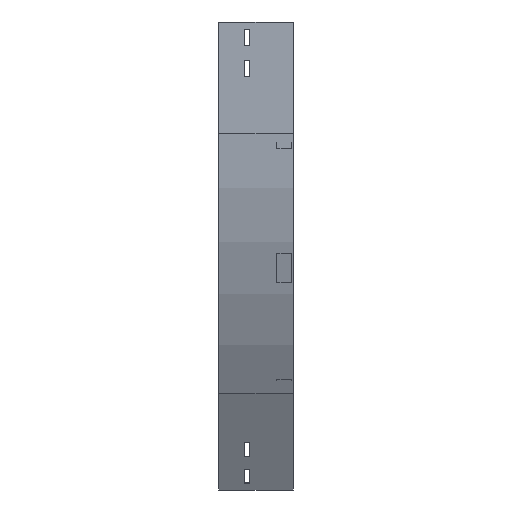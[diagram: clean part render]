
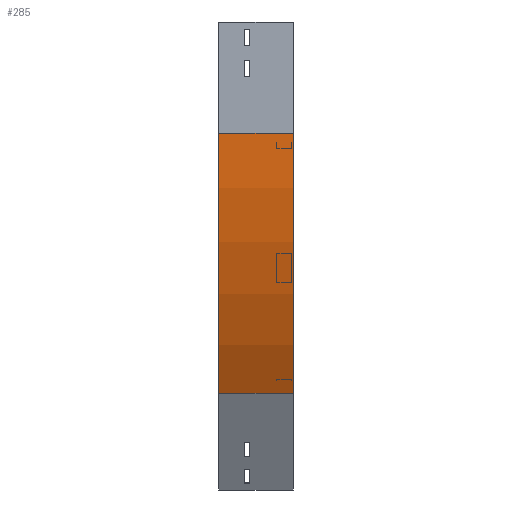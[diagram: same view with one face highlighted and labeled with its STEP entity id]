
A CAD part, left-side view. The second image highlights one B-rep face of the part: STEP entity #285.
In plain terms, the highlighted cylindrical face has radius 700 mm (diameter 1400 mm), a partial arc.
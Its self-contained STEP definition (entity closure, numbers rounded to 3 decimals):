
#285 = ADVANCED_FACE ( 'NONE', ( #513 ), #2003, .T. ) ;
#341 = VECTOR ( 'NONE', #693, 1000. ) ;
#395 = CARTESIAN_POINT ( 'NONE',  ( 700., 0., -150. ) ) ;
#407 = ORIENTED_EDGE ( 'NONE', *, *, #3655, .T. ) ;
#470 = CIRCLE ( 'NONE', #2581, 700. ) ;
#513 = FACE_OUTER_BOUND ( 'NONE', #3015, .T. ) ;
#693 = DIRECTION ( 'NONE',  ( 0., -1., 0. ) ) ;
#936 = CARTESIAN_POINT ( 'NONE',  ( 0., 0., -150. ) ) ;
#941 = CARTESIAN_POINT ( 'NONE',  ( 93.782, 100., -500. ) ) ;
#1065 = EDGE_CURVE ( 'NONE', #3474, #1152, #470, .T. ) ;
#1073 = LINE ( 'NONE', #3351, #341 ) ;
#1077 = AXIS2_PLACEMENT_3D ( 'NONE', #2216, #2277, #1694 ) ;
#1102 = VECTOR ( 'NONE', #3285, 1000. ) ;
#1152 = VERTEX_POINT ( 'NONE', #941 ) ;
#1252 = CARTESIAN_POINT ( 'NONE',  ( 0., 100., -150. ) ) ;
#1501 = DIRECTION ( 'NONE',  ( -1., 0., 0. ) ) ;
#1526 = EDGE_CURVE ( 'NONE', #3474, #3592, #3594, .T. ) ;
#1574 = DIRECTION ( 'NONE',  ( -1., 0., 0. ) ) ;
#1694 = DIRECTION ( 'NONE',  ( 0., 0., -1. ) ) ;
#1767 = DIRECTION ( 'NONE',  ( 0., -1., 0. ) ) ;
#1874 = ORIENTED_EDGE ( 'NONE', *, *, #3671, .F. ) ;
#2003 = CYLINDRICAL_SURFACE ( 'NONE', #1077, 700. ) ;
#2015 = ORIENTED_EDGE ( 'NONE', *, *, #1065, .T. ) ;
#2082 = CARTESIAN_POINT ( 'NONE',  ( 700., 100., -150. ) ) ;
#2178 = DIRECTION ( 'NONE',  ( 0., -1., 0. ) ) ;
#2211 = CARTESIAN_POINT ( 'NONE',  ( 0., 0., -150. ) ) ;
#2216 = CARTESIAN_POINT ( 'NONE',  ( 700., 0., -150. ) ) ;
#2277 = DIRECTION ( 'NONE',  ( 0., -1., 0. ) ) ;
#2312 = CIRCLE ( 'NONE', #3118, 700. ) ;
#2581 = AXIS2_PLACEMENT_3D ( 'NONE', #2082, #1767, #1501 ) ;
#2649 = CARTESIAN_POINT ( 'NONE',  ( 93.782, 0., -500. ) ) ;
#3015 = EDGE_LOOP ( 'NONE', ( #1874, #3094, #2015, #407 ) ) ;
#3094 = ORIENTED_EDGE ( 'NONE', *, *, #1526, .F. ) ;
#3118 = AXIS2_PLACEMENT_3D ( 'NONE', #395, #2178, #1574 ) ;
#3285 = DIRECTION ( 'NONE',  ( 0., -1., 0. ) ) ;
#3351 = CARTESIAN_POINT ( 'NONE',  ( 93.782, 0., -500. ) ) ;
#3474 = VERTEX_POINT ( 'NONE', #1252 ) ;
#3592 = VERTEX_POINT ( 'NONE', #2211 ) ;
#3594 = LINE ( 'NONE', #936, #1102 ) ;
#3655 = EDGE_CURVE ( 'NONE', #1152, #3798, #1073, .T. ) ;
#3671 = EDGE_CURVE ( 'NONE', #3592, #3798, #2312, .T. ) ;
#3798 = VERTEX_POINT ( 'NONE', #2649 ) ;
